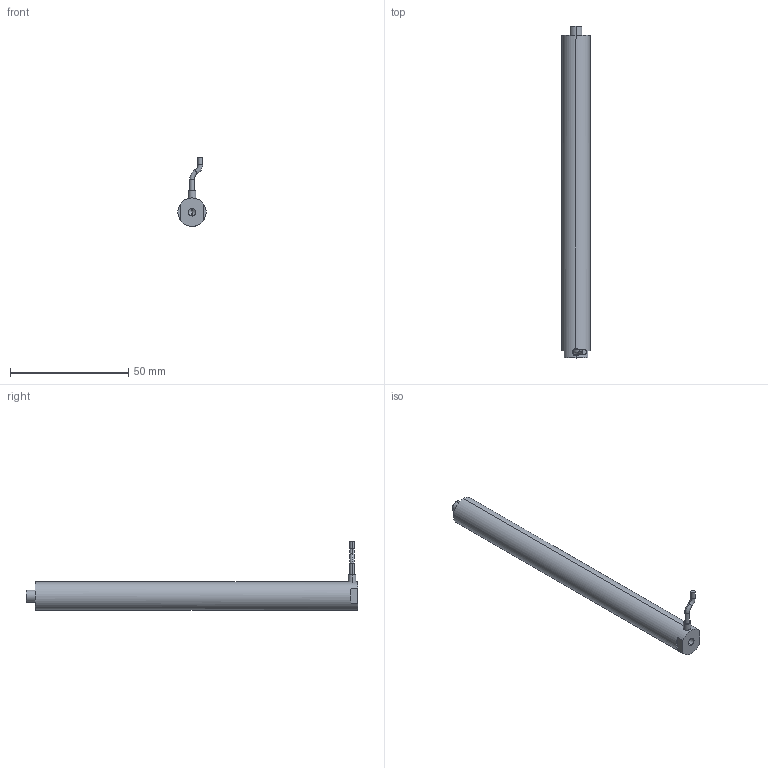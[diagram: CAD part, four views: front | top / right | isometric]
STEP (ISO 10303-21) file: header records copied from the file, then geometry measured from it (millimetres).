
FILE_DESCRIPTION (( 'STEP AP203' ), '1' );
FILE_NAME ('ƽͷʽ140VS12.STEP', '2020-08-19T06:09:22', ( 'User' ), ( 'china' ), 'SwSTEP 2.0', 'SolidWorks 2016', '' );
FILE_SCHEMA (( 'CONFIG_CONTROL_DESIGN' ));
Length unit declared in the file: millimetre
Products named in the file (1): ƽͷʽ140VS12
Bounding box: 12 x 140.6 x 29.08 mm (x, y, z)
Volume: 15518.6 mm3; surface area: 5632.7 mm2
Topology: 1 solids, 1 shells, 973 faces, 2678 edges, 1781 vertices
Faces by surface type: bspline 521, plane 321, cylinder 125, torus 4, cone 2
Entity records: 45284 total; most frequent: CARTESIAN_POINT 25213, ORIENTED_EDGE 5352, EDGE_CURVE 2676, DIRECTION 2107, VERTEX_POINT 1781, B_SPLINE_CURVE_WITH_KNOTS 1775, EDGE_LOOP 1049, ADVANCED_FACE 973
